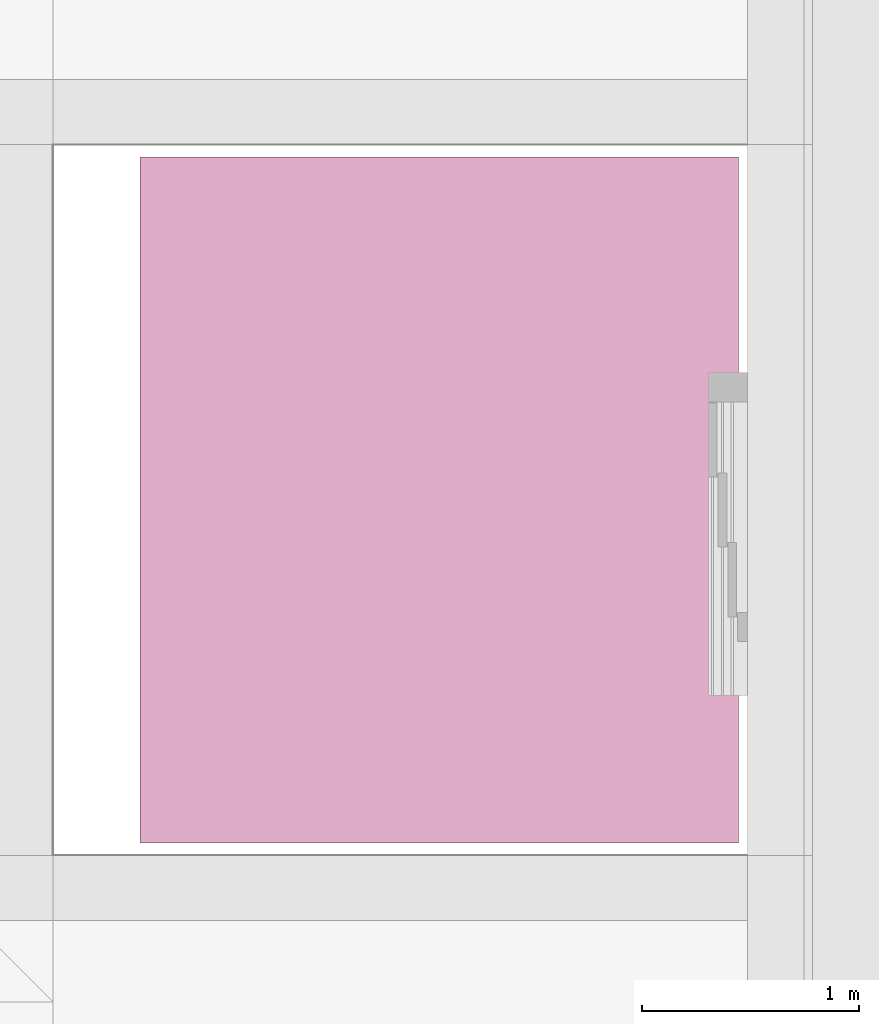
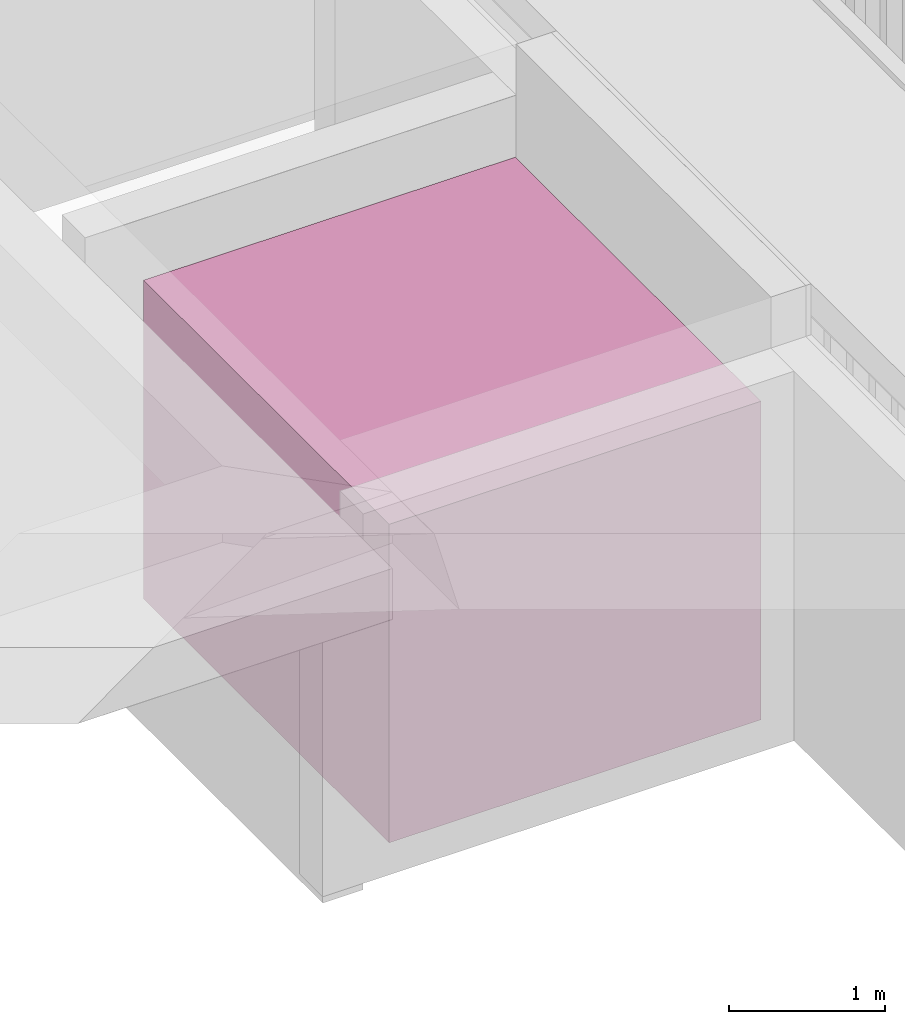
# One storey, part 7 of 7: 1 transport element.
"""IFC4 building model written with IfcOpenShell, lengths in millimetres."""

from ifc_helpers import new_model, entity, si_unit, converted_unit, derived_unit, direction, frame, origin_with_axes, place, context, subcontext, project, spatial, polygons, type_object, element, save


model = new_model("IFC4")

# Units and contexts
model_context = context("Model", 3, precision=0.01, world=origin_with_axes(), true_north=direction((0.0, 1.0)))
body_context = subcontext(model_context, "Body", "Model", "MODEL_VIEW")
ifc_project = project(units=[si_unit("LENGTHUNIT", "METRE", prefix="MILLI"), si_unit("AREAUNIT", "SQUARE_METRE"), si_unit("VOLUMEUNIT", "CUBIC_METRE"), converted_unit("PLANEANGLEUNIT", "DEGREE", entity("IfcPlaneAngleMeasure", 0.0174532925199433), si_unit("PLANEANGLEUNIT", "RADIAN"), dimensions=[0, 0, 0, 0, 0, 0, 0]), converted_unit("TIMEUNIT", "Year", entity("IfcTimeMeasure", 31557600.0), si_unit("TIMEUNIT", "SECOND"), dimensions=[0, 0, 1, 0, 0, 0, 0]), si_unit("MASSUNIT", "GRAM", prefix="KILO"), si_unit("THERMODYNAMICTEMPERATUREUNIT", "DEGREE_CELSIUS"), si_unit("LUMINOUSINTENSITYUNIT", "LUMEN"), si_unit("ENERGYUNIT", "JOULE", prefix="MEGA"), derived_unit("THERMALCONDUCTANCEUNIT", [(si_unit("POWERUNIT", "WATT"), 1), (si_unit("LENGTHUNIT", "METRE"), -1), (si_unit("THERMODYNAMICTEMPERATUREUNIT", "KELVIN"), -1)]), derived_unit("SPECIFICHEATCAPACITYUNIT", [(si_unit("ENERGYUNIT", "JOULE"), 1), (si_unit("MASSUNIT", "GRAM", prefix="KILO"), -1), (si_unit("THERMODYNAMICTEMPERATUREUNIT", "KELVIN"), -1)]), derived_unit("MASSDENSITYUNIT", [(si_unit("MASSUNIT", "GRAM", prefix="KILO"), 1), (si_unit("VOLUMEUNIT", "CUBIC_METRE"), -1)])], contexts=[model_context])

# Site, building, storey
site_placement = place(None, origin_with_axes())
site = spatial("IfcSite", under=ifc_project, at=site_placement, Name="Gelände", CompositionType="ELEMENT")
building_placement = place(site_placement, origin_with_axes())
building = spatial("IfcBuilding", under=site, at=building_placement, Name="Gebäude", CompositionType="ELEMENT")
storey_placement = place(building_placement, frame((0.0, 0.0, -3900.000000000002), z_axis=(0.0, 0.0, 1.0), x_axis=(1.0, 0.0, 0.0)))
storey = spatial("IfcBuildingStorey", under=building, at=storey_placement, Name="UG", CompositionType="ELEMENT", Elevation=-3900.0)

# Transport element
transport_element_type = type_object("IfcTransportElementType", Name="Fahrstuhl 27", PredefinedType="NOTDEFINED")
transport_element_placement = place(storey_placement, frame((15578.99744477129, 31722.59728131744, 611.764983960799), z_axis=(0.0, 0.0, 1.0), x_axis=(0.0, 1.0, 0.0)))
element("IfcTransportElement", 1, at=transport_element_placement, inside=storey, type_object=transport_element_type, Name="Möbel-019", PredefinedType="NOTDEFINED", context=body_context, shape_type="Tessellation", body=[
    polygons([(1787.499999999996, 210.0, 0.0), (1337.499999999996, 210.0, 0.0), (1337.499999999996, 210.0000000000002, 2100.0), (1787.499999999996, 210.0000000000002, 2100.0), (1787.499999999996, 190.0, 0.0), (1337.499999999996, 190.0, 0.0), (1337.499999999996, 190.0000000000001, 2100.0), (1787.499999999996, 190.0000000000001, 2100.0)], [[[1, 2, 3, 4]], [[2, 1, 5, 6]], [[3, 2, 6, 7]], [[4, 3, 7, 8]], [[1, 4, 8, 5]], [[6, 5, 8, 7]]], closed=True),
    polygons([(2237.499999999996, 230.0, 0.0), (1787.499999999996, 230.0, 0.0), (1787.499999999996, 230.0000000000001, 2100.0), (2237.499999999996, 230.0000000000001, 2100.0), (2237.499999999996, 210.0, 0.0), (1787.499999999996, 210.0, 0.0), (1787.499999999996, 210.0000000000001, 2100.0), (2237.499999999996, 210.0000000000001, 2100.0)], [[[1, 2, 3, 4]], [[2, 1, 5, 6]], [[3, 2, 6, 7]], [[4, 3, 7, 8]], [[1, 4, 8, 5]], [[6, 5, 8, 7]]], closed=True),
    polygons([(2237.499999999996, 270.0, 0.0), (3287.499999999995, 270.0, 0.0), (3287.499999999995, 2870.0, 0.0), (287.4999999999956, 2870.0, 0.0), (287.4999999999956, 270.0, 0.0), (1337.499999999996, 270.0, 0.0), (1337.499999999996, 230.0, 0.0), (887.4999999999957, 230.0, 0.0), (887.4999999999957, 189.9999999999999, 0.0), (207.4999999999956, 189.9999999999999, 0.0), (207.4999999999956, 2950.0, 0.0), (3367.499999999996, 2950.0, 0.0), (3367.499999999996, 189.9999999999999, 0.0), (2237.499999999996, 189.9999999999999, 0.0), (287.4999999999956, 270.0, 2400.0), (3287.499999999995, 270.0, 2400.0), (2237.499999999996, 270.0, 2100.0), (1337.499999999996, 270.0, 2100.0), (3287.499999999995, 2870.0, 2400.0), (287.4999999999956, 2870.0, 2400.0), (1337.499999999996, 230.0000000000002, 2100.0), (887.4999999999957, 230.0000000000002, 2100.0), (887.4999999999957, 189.9999999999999, 2100.0), (1787.499999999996, 189.9999999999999, 2100.0), (2237.499999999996, 189.9999999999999, 2100.0), (3367.499999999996, 189.9999999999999, 2400.0), (207.4999999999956, 189.9999999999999, 2400.0), (207.4999999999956, 2950.0, 2400.0), (3367.499999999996, 2950.0, 2400.0), (1787.499999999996, 230.0000000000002, 2100.0)], [[[1, 2, 3, 4, 5, 6, 7, 8, 9, 10, 11, 12, 13, 14]], [[15, 16, 2, 1, 17, 18, 6, 5]], [[16, 19, 3, 2]], [[19, 20, 4, 3]], [[20, 15, 5, 4]], [[6, 18, 21, 7]], [[21, 22, 8, 7]], [[22, 23, 9, 8]], [[9, 23, 24, 25, 14, 13, 26, 27, 10]], [[28, 11, 10, 27]], [[29, 12, 11, 28]], [[26, 13, 12, 29]], [[17, 1, 14, 25]], [[28, 27, 26, 29], [15, 20, 19, 16]], [[18, 17, 25, 24, 30, 21]], [[23, 22, 21, 30, 24]]], closed=True),
    polygons([(207.4999999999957, 190.0, -50.0), (3367.499999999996, 190.0, -50.0), (3367.499999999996, 190.0, 0.0), (207.4999999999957, 190.0, 0.0), (207.4999999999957, 2950.0, -50.0), (3367.499999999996, 2950.0, -50.0), (3367.499999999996, 2950.0, 0.0), (207.4999999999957, 2950.0, 0.0)], [[[1, 2, 3, 4]], [[1, 5, 6, 2]], [[2, 6, 7, 3]], [[4, 3, 7, 8]], [[5, 1, 4, 8]], [[6, 5, 8, 7]]], closed=True),
    polygons([(207.4999999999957, 190.0, 2400.0), (3367.499999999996, 190.0, 2400.0), (3367.499999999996, 190.0, 2450.0), (207.4999999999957, 190.0, 2450.0), (207.4999999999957, 2950.0, 2400.0), (3367.499999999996, 2950.0, 2400.0), (3367.499999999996, 2950.0, 2450.0), (207.4999999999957, 2950.0, 2450.0)], [[[1, 2, 3, 4]], [[1, 5, 6, 2]], [[2, 6, 7, 3]], [[4, 3, 7, 8]], [[5, 1, 4, 8]], [[6, 5, 8, 7]]], closed=True),
    polygons([(3287.499999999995, 370.0, 1000.0), (3287.499999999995, 470.0000000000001, 1000.0), (3287.499999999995, 470.0000000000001, 1075.0), (3287.499999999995, 370.0, 1075.0), (3277.499999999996, 370.0, 1000.0), (3277.499999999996, 470.0000000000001, 1000.0), (3277.499999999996, 470.0000000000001, 1075.0), (3277.499999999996, 370.0, 1075.0)], [[[1, 2, 3, 4]], [[2, 1, 5, 6]], [[3, 2, 6, 7]], [[4, 3, 7, 8]], [[1, 4, 8, 5]], [[6, 5, 8, 7]]], closed=True),
    polygons([(3277.499999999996, 450.4289321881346, 1005.428932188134), (3277.499999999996, 450.4289321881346, 1019.571067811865), (3272.499999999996, 451.8431457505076, 1018.156854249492), (3272.499999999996, 451.8431457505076, 1006.843145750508), (3277.499999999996, 464.5710678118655, 1005.428932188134), (3277.499999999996, 464.5710678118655, 1019.571067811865), (3272.499999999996, 463.1568542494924, 1018.156854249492), (3272.499999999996, 463.1568542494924, 1006.843145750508)], [[[1, 2, 3, 4]], [[1, 5, 6, 2]], [[2, 6, 7, 3]], [[4, 3, 7, 8]], [[5, 1, 4, 8]], [[6, 5, 8, 7]]], closed=True),
    polygons([(3277.499999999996, 425.4289321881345, 1005.428932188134), (3277.499999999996, 425.4289321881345, 1019.571067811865), (3272.499999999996, 426.8431457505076, 1018.156854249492), (3272.499999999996, 426.8431457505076, 1006.843145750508), (3277.499999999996, 439.5710678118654, 1005.428932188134), (3277.499999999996, 439.5710678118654, 1019.571067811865), (3272.499999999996, 438.1568542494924, 1018.156854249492), (3272.499999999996, 438.1568542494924, 1006.843145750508)], [[[1, 2, 3, 4]], [[1, 5, 6, 2]], [[2, 6, 7, 3]], [[4, 3, 7, 8]], [[5, 1, 4, 8]], [[6, 5, 8, 7]]], closed=True),
    polygons([(3277.499999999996, 400.4289321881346, 1005.428932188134), (3277.499999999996, 400.4289321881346, 1019.571067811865), (3272.499999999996, 401.8431457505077, 1018.156854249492), (3272.499999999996, 401.8431457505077, 1006.843145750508), (3277.499999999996, 414.5710678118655, 1005.428932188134), (3277.499999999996, 414.5710678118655, 1019.571067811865), (3272.499999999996, 413.1568542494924, 1018.156854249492), (3272.499999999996, 413.1568542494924, 1006.843145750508)], [[[1, 2, 3, 4]], [[1, 5, 6, 2]], [[2, 6, 7, 3]], [[4, 3, 7, 8]], [[5, 1, 4, 8]], [[6, 5, 8, 7]]], closed=True),
    polygons([(3277.499999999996, 375.4289321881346, 1005.428932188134), (3277.499999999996, 375.4289321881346, 1019.571067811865), (3272.499999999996, 376.8431457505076, 1018.156854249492), (3272.499999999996, 376.8431457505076, 1006.843145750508), (3277.499999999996, 389.5710678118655, 1005.428932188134), (3277.499999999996, 389.5710678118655, 1019.571067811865), (3272.499999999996, 388.1568542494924, 1018.156854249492), (3272.499999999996, 388.1568542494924, 1006.843145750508)], [[[1, 2, 3, 4]], [[1, 5, 6, 2]], [[2, 6, 7, 3]], [[4, 3, 7, 8]], [[5, 1, 4, 8]], [[6, 5, 8, 7]]], closed=True),
    polygons([(3277.499999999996, 450.4289321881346, 1055.428932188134), (3277.499999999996, 450.4289321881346, 1069.571067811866), (3272.499999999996, 451.8431457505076, 1068.156854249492), (3272.499999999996, 451.8431457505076, 1056.843145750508), (3277.499999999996, 464.5710678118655, 1055.428932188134), (3277.499999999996, 464.5710678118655, 1069.571067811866), (3272.499999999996, 463.1568542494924, 1068.156854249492), (3272.499999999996, 463.1568542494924, 1056.843145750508)], [[[1, 2, 3, 4]], [[1, 5, 6, 2]], [[2, 6, 7, 3]], [[4, 3, 7, 8]], [[5, 1, 4, 8]], [[6, 5, 8, 7]]], closed=True),
])

save(model, "model.ifc")
